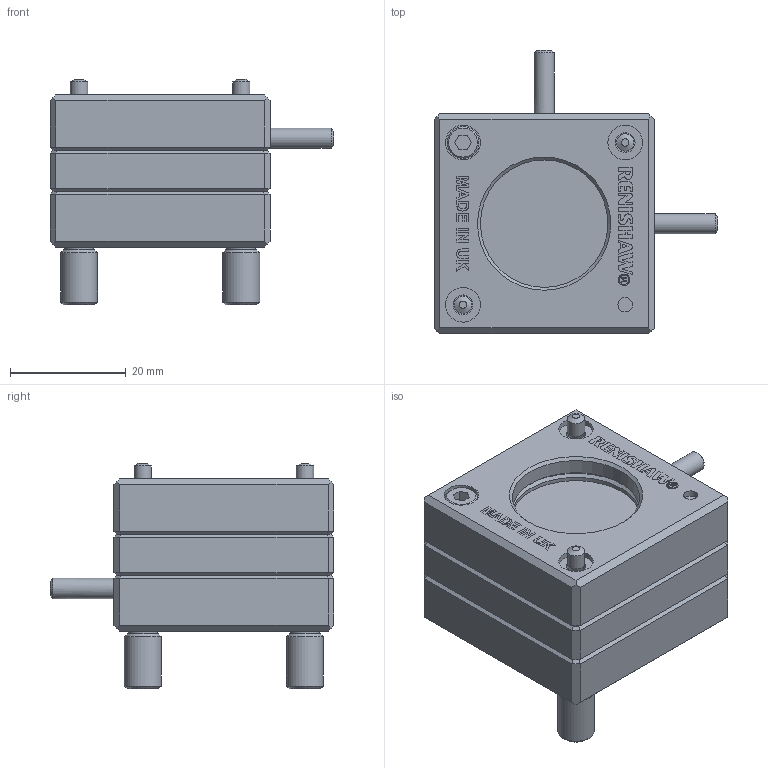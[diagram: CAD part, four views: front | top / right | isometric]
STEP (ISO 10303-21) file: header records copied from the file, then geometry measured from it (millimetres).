
FILE_DESCRIPTION(/* description */ (''),/* implementation_level */ '2;1');
FILE_NAME(/* name */ 'LA_8003_2898_A.stp',/* time_stamp */ '2014-11-26T13:25:38+00:00',/* author */ (''),/* organization */ (''),/* preprocessor_version */ 'ST-DEVELOPER v11',/* originating_system */ 'SIEMENS PLM Software NX 7.5',/* authorisation */ '');
FILE_SCHEMA (('CONFIG_CONTROL_DESIGN'));
Length unit declared in the file: millimetre
Products named in the file (1): lr1354B9n1fr
Bounding box: 49 x 49 x 39 mm (x, y, z)
Volume: 31818.1 mm3; surface area: 15163.9 mm2
Topology: 1 solids, 9 shells, 323 faces, 1009 edges, 792 vertices
Faces by surface type: plane 224, cylinder 61, cone 32, torus 6
Full cylindrical faces by diameter (mm): 1.5 x2, 1.7 x2, 2.25 x2, 2.5 x6, 2.535 x4, 2.545 x3, 3 x6, 3.4 x6, 3.5 x2, 5 x2, 5.5 x2, 6 x6, 6.4 x2, 22 x4, 25.35 x2, 27.95 x2
Entity records: 11958 total; most frequent: CARTESIAN_POINT 3898, ORIENTED_EDGE 1774, DIRECTION 1227, EDGE_CURVE 887, VERTEX_POINT 762, EDGE_LOOP 505, AXIS2_PLACEMENT_3D 474, B_SPLINE_CURVE_WITH_KNOTS 454
